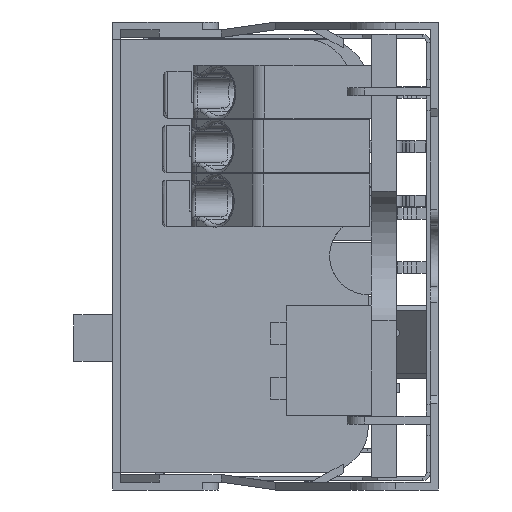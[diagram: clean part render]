
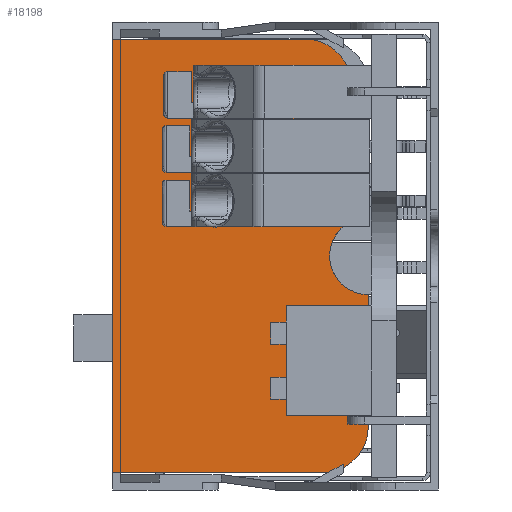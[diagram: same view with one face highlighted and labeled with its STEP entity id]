
A CAD part, left-side view. The second image highlights one B-rep face of the part: STEP entity #18198.
In plain terms, the highlighted planar face has unit normal (-1, 0, 0).
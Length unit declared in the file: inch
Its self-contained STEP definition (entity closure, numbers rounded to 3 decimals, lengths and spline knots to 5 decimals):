
#674=CIRCLE('',#19528,0.11811);
#675=CIRCLE('',#19529,0.09843);
#676=CIRCLE('',#19530,0.11811);
#1499=FACE_OUTER_BOUND('',#2471,.T.);
#2471=EDGE_LOOP('',(#14827,#14828,#14829,#14830,#14831,#14832,#14833,#14834));
#4360=LINE('',#29411,#6413);
#4366=LINE('',#29423,#6419);
#4370=LINE('',#29433,#6423);
#4371=LINE('',#29437,#6424);
#4372=LINE('',#29439,#6425);
#6413=VECTOR('',#23628,1.10236);
#6419=VECTOR('',#23636,0.48819);
#6423=VECTOR('',#23644,0.33465);
#6424=VECTOR('',#23647,0.34469);
#6425=VECTOR('',#23650,0.5315);
#8189=VERTEX_POINT('',#29408);
#8190=VERTEX_POINT('',#29410);
#8195=VERTEX_POINT('',#29422);
#8197=VERTEX_POINT('',#29429);
#8198=VERTEX_POINT('',#29430);
#8199=VERTEX_POINT('',#29432);
#8200=VERTEX_POINT('',#29434);
#8201=VERTEX_POINT('',#29436);
#10491=EDGE_CURVE('',#8189,#8190,#4360,.T.);
#10497=EDGE_CURVE('',#8190,#8195,#4366,.T.);
#10501=EDGE_CURVE('',#8197,#8198,#674,.T.);
#10502=EDGE_CURVE('',#8199,#8197,#4370,.T.);
#10503=EDGE_CURVE('',#8200,#8199,#675,.T.);
#10504=EDGE_CURVE('',#8201,#8200,#4371,.T.);
#10505=EDGE_CURVE('',#8195,#8201,#676,.T.);
#10506=EDGE_CURVE('',#8198,#8189,#4372,.T.);
#14827=ORIENTED_EDGE('',*,*,#10501,.F.);
#14828=ORIENTED_EDGE('',*,*,#10502,.F.);
#14829=ORIENTED_EDGE('',*,*,#10503,.F.);
#14830=ORIENTED_EDGE('',*,*,#10504,.F.);
#14831=ORIENTED_EDGE('',*,*,#10505,.F.);
#14832=ORIENTED_EDGE('',*,*,#10497,.F.);
#14833=ORIENTED_EDGE('',*,*,#10491,.F.);
#14834=ORIENTED_EDGE('',*,*,#10506,.F.);
#16494=PLANE('',#19527);
#18198=ADVANCED_FACE('',(#1499),#16494,.T.);
#19527=AXIS2_PLACEMENT_3D('',#29428,#23640,#23641);
#19528=AXIS2_PLACEMENT_3D('',#29431,#23642,#23643);
#19529=AXIS2_PLACEMENT_3D('',#29435,#23645,#23646);
#19530=AXIS2_PLACEMENT_3D('',#29438,#23648,#23649);
#23628=DIRECTION('',(0.,0.,1.));
#23636=DIRECTION('',(0.,-1.,0.));
#23640=DIRECTION('center_axis',(-1.,0.,0.));
#23641=DIRECTION('ref_axis',(0.,-1.,0.));
#23642=DIRECTION('center_axis',(1.,0.,0.));
#23643=DIRECTION('ref_axis',(0.,-1.,0.));
#23644=DIRECTION('',(0.,0.,-1.));
#23645=DIRECTION('center_axis',(-1.,0.,0.));
#23646=DIRECTION('ref_axis',(0.,1.,0.));
#23647=DIRECTION('',(0.,0.,-1.));
#23648=DIRECTION('center_axis',(1.,0.,0.));
#23649=DIRECTION('ref_axis',(0.,0.,1.));
#23650=DIRECTION('',(0.,1.,0.));
#29408=CARTESIAN_POINT('',(-2.34252,0.82677,-0.59028));
#29410=CARTESIAN_POINT('',(-2.34252,0.82677,0.51208));
#29411=CARTESIAN_POINT('',(-2.34252,0.82677,-0.59028));
#29422=CARTESIAN_POINT('',(-2.34252,0.33858,0.51208));
#29423=CARTESIAN_POINT('',(-2.34252,0.82677,0.51208));
#29428=CARTESIAN_POINT('Origin',(-2.34252,0.29528,-0.47217));
#29429=CARTESIAN_POINT('',(-2.34252,0.17717,-0.47217));
#29430=CARTESIAN_POINT('',(-2.34252,0.29528,-0.59028));
#29431=CARTESIAN_POINT('Origin',(-2.34252,0.29528,-0.47217));
#29432=CARTESIAN_POINT('',(-2.34252,0.17717,-0.13752));
#29433=CARTESIAN_POINT('',(-2.34252,0.17717,-0.13752));
#29434=CARTESIAN_POINT('',(-2.34252,0.22047,0.04929));
#29435=CARTESIAN_POINT('Origin',(-2.34252,0.17717,-0.0391));
#29436=CARTESIAN_POINT('',(-2.34252,0.22047,0.39397));
#29437=CARTESIAN_POINT('',(-2.34252,0.22047,0.39397));
#29438=CARTESIAN_POINT('Origin',(-2.34252,0.33858,0.39397));
#29439=CARTESIAN_POINT('',(-2.34252,0.29528,-0.59028));
